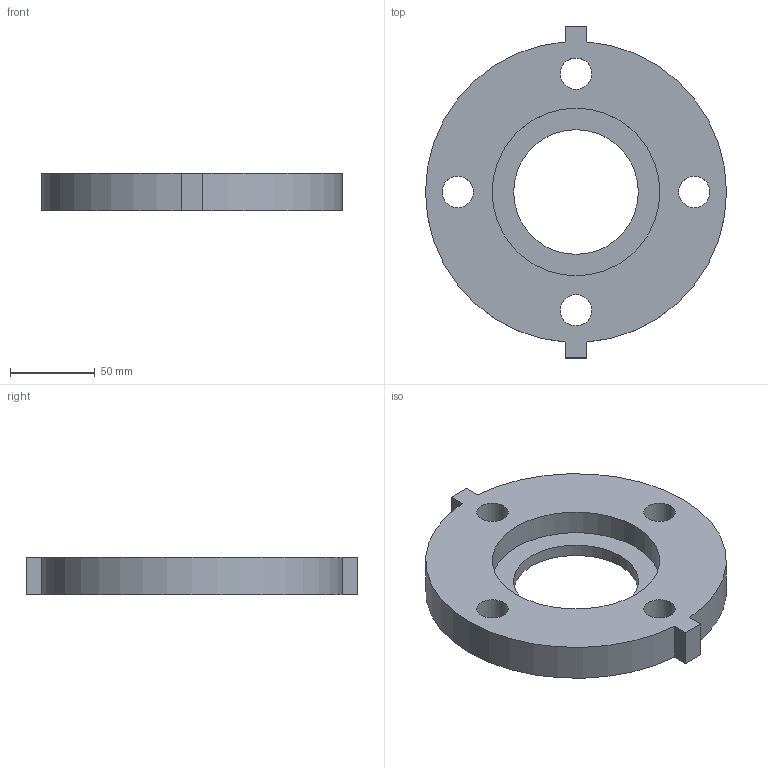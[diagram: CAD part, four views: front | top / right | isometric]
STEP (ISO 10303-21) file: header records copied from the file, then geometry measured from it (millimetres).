
FILE_DESCRIPTION(/* description */ ('VIC FLANGE ADAPTER STYLE 441','CAx-IF Rec.Pracs.---Representation and Presentation of Product Manufacturing Information (PMI)---4.0---2014-10-13'),/* implementation_level */ '2;1');
FILE_NAME(/* name */ 'C:\Users\kkamble\AppData\Roaming\Autodesk\ApplicationPlugins\Back Up\Victaulic_SS-OGS_Flange Adapter_CL 150_Style 441 (OGSxFLG)\Victaulic_SS-OGS_Flange Adapter_CL 150_Style 441 (OGSxFLG)_2.5 (65).stp',/* time_stamp */ '2020-08-27T09:29:39+06:00',/* author */ ('mchristi'),/* organization */ ('Victaulic'),/* preprocessor_version */ 'ST-DEVELOPER v17.2',/* originating_system */ 'Autodesk Inventor 2019',/* authorisation */ '');
FILE_SCHEMA (('AP242_MANAGED_MODEL_BASED_3D_ENGINEERING_MIM_LF { 1 0 10303 442 1 1 4 }'));
Length unit declared in the file: inch
Products named in the file (1): 441-02.5
Bounding box: 177.8 x 196.09 x 22.35 mm (x, y, z)
Volume: 389467.2 mm3; surface area: 64335 mm2
Topology: 1 solids, 1 shells, 17 faces, 42 edges, 28 vertices
Faces by surface type: plane 9, cylinder 8
Full cylindrical faces by diameter (mm): 18.542 x4, 73.66 x1, 99.06 x1
Entity records: 681 total; most frequent: DIRECTION 120, CARTESIAN_POINT 105, ORIENTED_EDGE 84, AXIS2_PLACEMENT_3D 47, EDGE_CURVE 42, EDGE_LOOP 28, VERTEX_POINT 28, LINE 26
